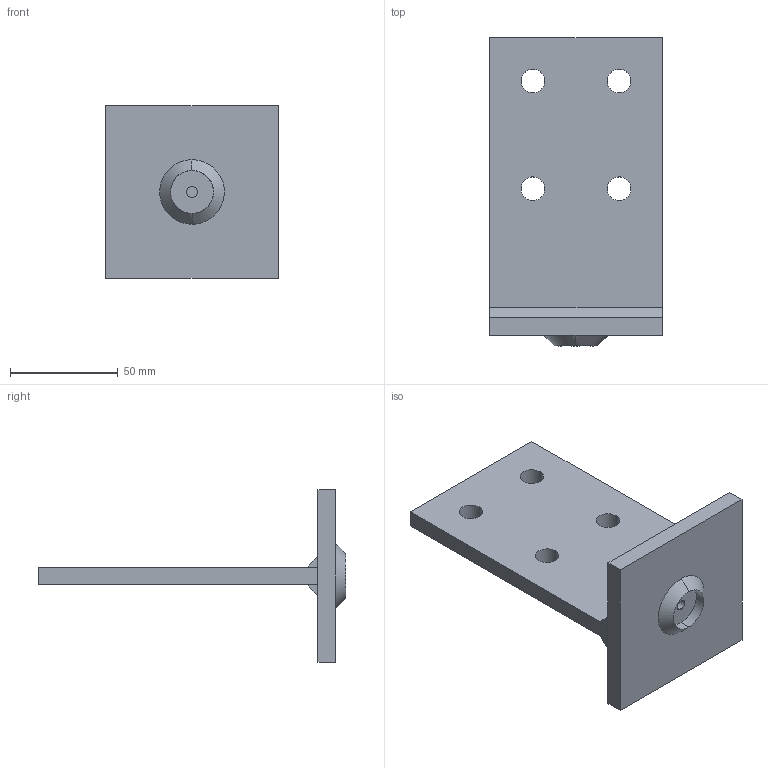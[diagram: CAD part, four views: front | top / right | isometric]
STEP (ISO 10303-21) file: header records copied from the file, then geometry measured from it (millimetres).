
FILE_DESCRIPTION (( 'STEP AP203' ), '1' );
FILE_NAME ('19810201.STEP', '2021-04-20T16:32:24', ( '' ), ( '' ), 'SwSTEP 2.0', 'SolidWorks 2013', '' );
FILE_SCHEMA (( 'CONFIG_CONTROL_DESIGN' ));
Length unit declared in the file: millimetre
Products named in the file (1): 19810201
Bounding box: 80 x 143 x 80 mm (x, y, z)
Volume: 134418.3 mm3; surface area: 44033.8 mm2
Topology: 5 solids, 5 shells, 38 faces, 82 edges, 54 vertices
Faces by surface type: plane 22, cylinder 14, bspline 2
Entity records: 1634 total; most frequent: CARTESIAN_POINT 706, DIRECTION 176, ORIENTED_EDGE 164, EDGE_CURVE 82, AXIS2_PLACEMENT_3D 63, VERTEX_POINT 54, LINE 50, VECTOR 50
